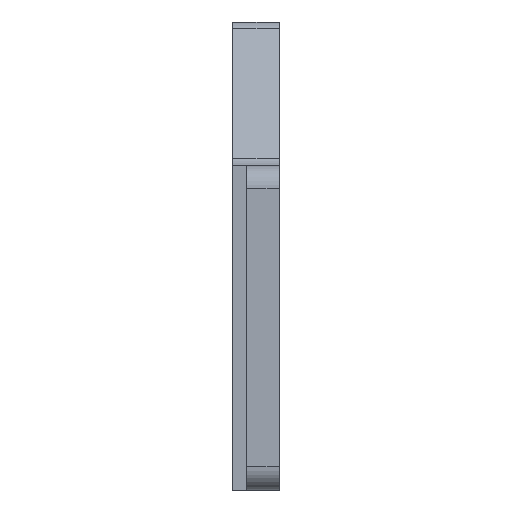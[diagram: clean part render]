
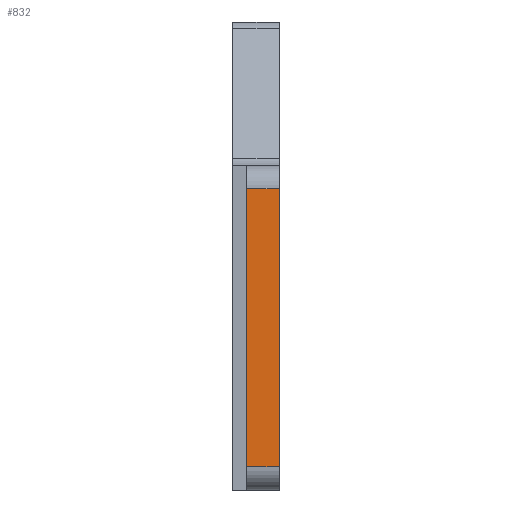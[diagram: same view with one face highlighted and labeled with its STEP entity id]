
A CAD part, left-side view. The second image highlights one B-rep face of the part: STEP entity #832.
In plain terms, the highlighted planar face has unit normal (-1, 0, 0).
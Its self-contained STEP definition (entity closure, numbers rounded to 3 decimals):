
#7 = VECTOR ( 'NONE', #98, 1000. ) ;
#10 = FACE_OUTER_BOUND ( 'NONE', #922, .T. ) ;
#16 = DIRECTION ( 'NONE',  ( 0., 0., -1. ) ) ;
#89 = CARTESIAN_POINT ( 'NONE',  ( -110., 7., -81. ) ) ;
#98 = DIRECTION ( 'NONE',  ( 0., 0., 1. ) ) ;
#191 = DIRECTION ( 'NONE',  ( 0., 0., 1. ) ) ;
#445 = ORIENTED_EDGE ( 'NONE', *, *, #453, .F. ) ;
#446 = LINE ( 'NONE', #1254, #7 ) ;
#453 = EDGE_CURVE ( 'NONE', #1451, #1356, #1615, .T. ) ;
#466 = ORIENTED_EDGE ( 'NONE', *, *, #2104, .T. ) ;
#497 = PLANE ( 'NONE',  #1704 ) ;
#658 = CARTESIAN_POINT ( 'NONE',  ( -110., 7., -21. ) ) ;
#663 = CARTESIAN_POINT ( 'NONE',  ( -110., 10., -21. ) ) ;
#677 = CARTESIAN_POINT ( 'NONE',  ( -110., 10., -21. ) ) ;
#692 = DIRECTION ( 'NONE',  ( 0., -1., 0. ) ) ;
#695 = VERTEX_POINT ( 'NONE', #1035 ) ;
#708 = LINE ( 'NONE', #1640, #1125 ) ;
#832 = ADVANCED_FACE ( 'NONE', ( #10 ), #497, .F. ) ;
#838 = VECTOR ( 'NONE', #191, 1000. ) ;
#848 = LINE ( 'NONE', #663, #1626 ) ;
#869 = VERTEX_POINT ( 'NONE', #1337 ) ;
#922 = EDGE_LOOP ( 'NONE', ( #445, #964, #466, #1152 ) ) ;
#964 = ORIENTED_EDGE ( 'NONE', *, *, #1688, .T. ) ;
#1035 = CARTESIAN_POINT ( 'NONE',  ( -110., 0., -21. ) ) ;
#1083 = EDGE_CURVE ( 'NONE', #1356, #695, #848, .T. ) ;
#1125 = VECTOR ( 'NONE', #692, 1000. ) ;
#1152 = ORIENTED_EDGE ( 'NONE', *, *, #1083, .F. ) ;
#1254 = CARTESIAN_POINT ( 'NONE',  ( -110., 0., -21. ) ) ;
#1326 = DIRECTION ( 'NONE',  ( 1., 0., 0. ) ) ;
#1337 = CARTESIAN_POINT ( 'NONE',  ( -110., 0., -81. ) ) ;
#1356 = VERTEX_POINT ( 'NONE', #658 ) ;
#1451 = VERTEX_POINT ( 'NONE', #89 ) ;
#1615 = LINE ( 'NONE', #1726, #838 ) ;
#1626 = VECTOR ( 'NONE', #1769, 1000. ) ;
#1640 = CARTESIAN_POINT ( 'NONE',  ( -110., 10., -81. ) ) ;
#1688 = EDGE_CURVE ( 'NONE', #1451, #869, #708, .T. ) ;
#1704 = AXIS2_PLACEMENT_3D ( 'NONE', #677, #1326, #16 ) ;
#1726 = CARTESIAN_POINT ( 'NONE',  ( -110., 7., -86. ) ) ;
#1769 = DIRECTION ( 'NONE',  ( 0., -1., 0. ) ) ;
#2104 = EDGE_CURVE ( 'NONE', #869, #695, #446, .T. ) ;
